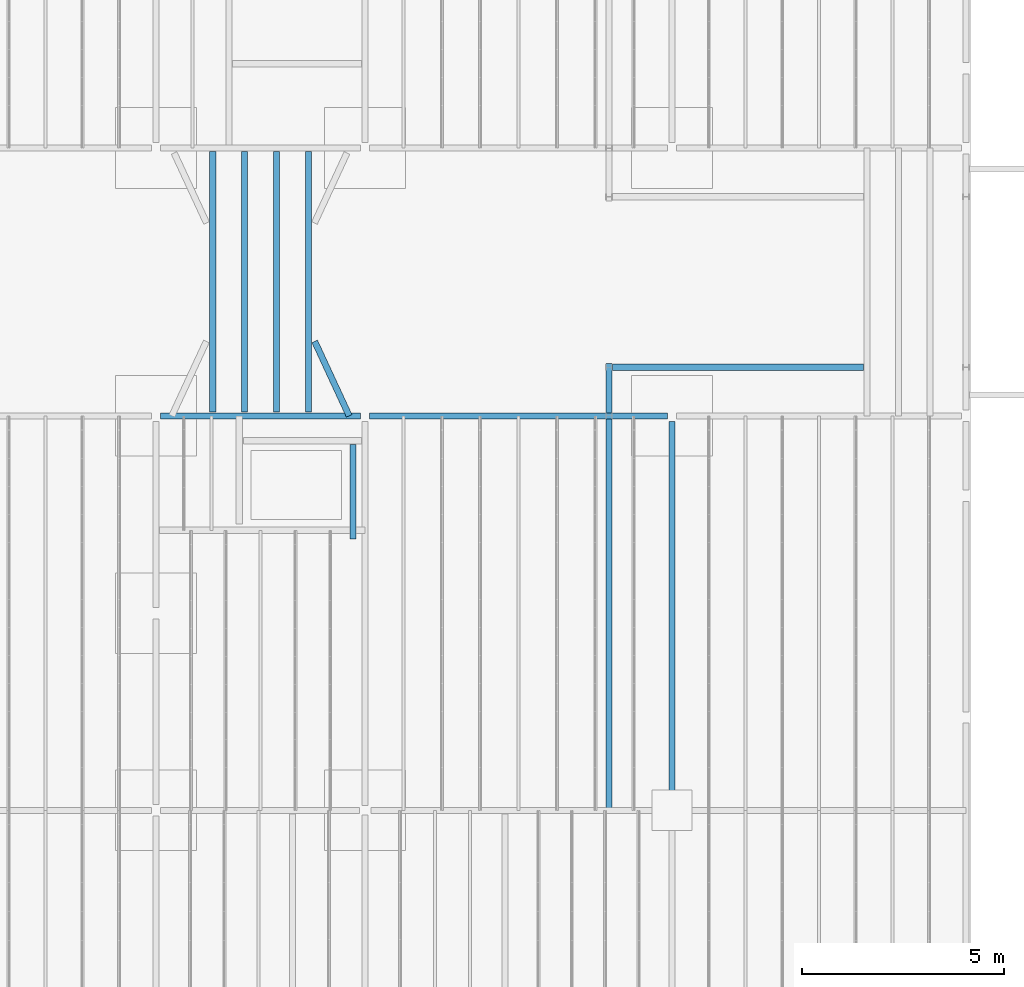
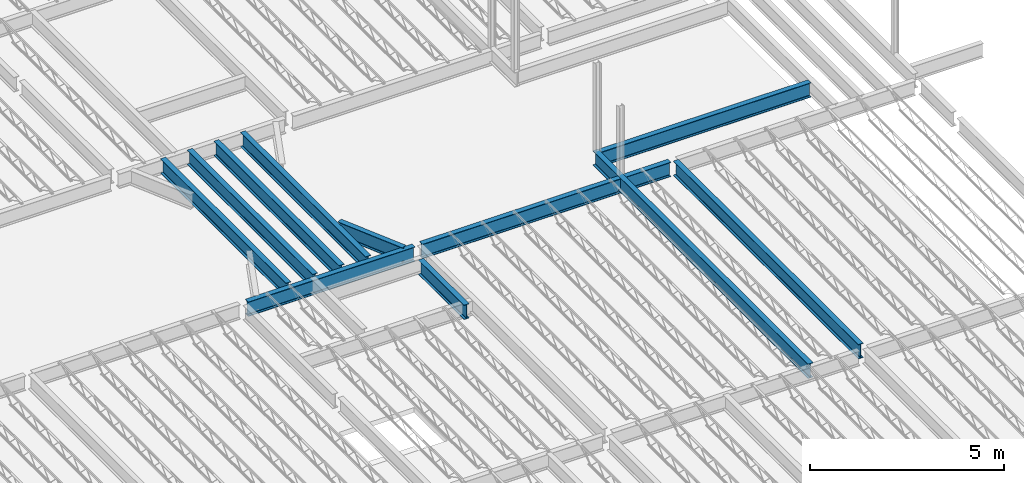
# One storey, part 12 of 75: 11 beams.
"""IFC2X3 building model written with IfcOpenShell, lengths in metres."""

from ifc_helpers import new_model, entity, si_unit, converted_unit, frame, frame_2d, origin, place, context, project, spatial, polyline, circle_curve, parameter, trimmed, segment, composite_curve, outline, extrude, material, element, save


model = new_model("IFC2X3")

# Units and contexts
model_context = context("Model", 3, precision=1e-09, world=origin())
plan_context = context("Plan", 3, precision=1e-09, world=origin())
ifc_project = project(units=[si_unit("LENGTHUNIT", "METRE"), si_unit("AREAUNIT", "SQUARE_METRE"), si_unit("VOLUMEUNIT", "CUBIC_METRE"), converted_unit("PLANEANGLEUNIT", "DEGREE", entity("IfcRatioMeasure", 0.01745329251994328), si_unit("PLANEANGLEUNIT", "RADIAN"), dimensions=[0, 0, 0, 0, 0, 0, 0]), si_unit("TIMEUNIT", "SECOND")], contexts=[model_context, plan_context])

# Site, building, storey
site_placement = place(None, origin())
site = spatial("IfcSite", under=ifc_project, at=site_placement, Name="Default", CompositionType="ELEMENT")
building_placement = place(site_placement, origin())
building = spatial("IfcBuilding", under=site, at=building_placement, CompositionType="ELEMENT")
storey_placement = place(building_placement, origin())
storey = spatial("IfcBuildingStorey", under=building, at=storey_placement, Name="First Floor", CompositionType="ELEMENT", Elevation=-3.531500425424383e-13)

# Beams
ifc_material = material(Name="Metal - Steel - 345 MPa")
beam_1_placement = place(storey_placement, frame((-18.65495481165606, 28.52799529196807, 4.468000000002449)))
element("IfcBeam", 1, at=beam_1_placement, inside=storey, material=ifc_material, Name="M_W-Wide Flange:W460X60:W460X60", ObjectType="M_W-Wide Flange:W460X60", context=model_context, shape_type="SweptSolid", body=[
    extrude(outline(composite_curve([segment(polyline([(-0.07649999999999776, -0.2142), (-0.07649999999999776, -0.2275000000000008)]), True, "CONTINUOUS"), segment(polyline([(-0.07649999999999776, -0.2275000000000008), (0.0765000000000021, -0.2275000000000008)]), True, "CONTINUOUS"), segment(polyline([(0.0765000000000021, -0.2275000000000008), (0.0765000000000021, -0.2142)]), True, "CONTINUOUS"), segment(polyline([(0.0765000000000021, -0.2142), (0.02170000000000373, -0.2142)]), True, "CONTINUOUS"), segment(trimmed(circle_curve(frame_2d((0.02170000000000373, -0.1964999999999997), x_axis=(1.0, 0.0)), 0.0177), [parameter(180.0)], [parameter(269.9999999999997)], True, "PARAMETER"), False, "CONTINUOUS"), segment(polyline([(0.004000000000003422, -0.1964999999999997), (0.004000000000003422, 0.1965000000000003)]), True, "CONTINUOUS"), segment(trimmed(circle_curve(frame_2d((0.02170000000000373, 0.1965000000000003), x_axis=(1.0, 0.0)), 0.0177), [parameter(90.00000000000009)], [parameter(179.9999999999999)], True, "PARAMETER"), False, "CONTINUOUS"), segment(polyline([(0.02170000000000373, 0.2142000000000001), (0.0765000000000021, 0.2142000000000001)]), True, "CONTINUOUS"), segment(polyline([(0.0765000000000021, 0.2142000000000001), (0.0765000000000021, 0.2274999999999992)]), True, "CONTINUOUS"), segment(polyline([(0.0765000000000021, 0.2274999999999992), (-0.07649999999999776, 0.2274999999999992)]), True, "CONTINUOUS"), segment(polyline([(-0.07649999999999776, 0.2274999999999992), (-0.07649999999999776, 0.2142000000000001)]), True, "CONTINUOUS"), segment(polyline([(-0.07649999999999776, 0.2142000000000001), (-0.02169999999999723, 0.2142000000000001)]), True, "CONTINUOUS"), segment(trimmed(circle_curve(frame_2d((-0.02169999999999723, 0.1965000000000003), x_axis=(1.0, 0.0)), 0.0177), [parameter(359.9999999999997)], [parameter(89.99999999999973)], True, "PARAMETER"), False, "CONTINUOUS"), segment(polyline([(-0.003999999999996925, 0.1965000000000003), (-0.003999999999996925, -0.1964999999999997)]), True, "CONTINUOUS"), segment(trimmed(circle_curve(frame_2d((-0.02169999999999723, -0.1964999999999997), x_axis=(1.0, 0.0)), 0.0177), [parameter(269.9999999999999)], [parameter(0.0)], True, "PARAMETER"), False, "CONTINUOUS"), segment(polyline([(-0.02169999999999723, -0.2142), (-0.07649999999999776, -0.2142)]), True, "CONTINUOUS")], self_intersect=False)), frame((0.0, -0.058795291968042, -0.2275000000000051), z_axis=(0.0, -1.0, 0.0), x_axis=(1.0, 0.0, 0.0)), (0.0, 0.0, -1.0), 6.451599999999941),
])
beam_2_placement = place(storey_placement, frame((-16.28495498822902, 34.86211010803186, 4.468000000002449), z_axis=(0.0, 0.0, 1.0), x_axis=(-1.0, 0.0, 0.0)))
element("IfcBeam", 2, at=beam_2_placement, inside=storey, material=ifc_material, Name="M_W-Wide Flange:W460X60:W460X60", ObjectType="M_W-Wide Flange:W460X60", context=model_context, shape_type="SweptSolid", body=[
    extrude(outline(composite_curve([segment(polyline([(0.2142, -0.07650000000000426), (0.2275000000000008, -0.07650000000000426)]), True, "CONTINUOUS"), segment(polyline([(0.2275000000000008, -0.07650000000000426), (0.2275000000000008, 0.0764999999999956)]), True, "CONTINUOUS"), segment(polyline([(0.2275000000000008, 0.0764999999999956), (0.2142, 0.0764999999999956)]), True, "CONTINUOUS"), segment(polyline([(0.2142, 0.0764999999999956), (0.2142, 0.02169999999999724)]), True, "CONTINUOUS"), segment(trimmed(circle_curve(frame_2d((0.1964999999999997, 0.02169999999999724), x_axis=(0.0, 1.0)), 0.0177), [parameter(180.0)], [parameter(269.9999999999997)], True, "PARAMETER"), False, "CONTINUOUS"), segment(polyline([(0.1964999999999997, 0.003999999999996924), (-0.1965000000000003, 0.003999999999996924)]), True, "CONTINUOUS"), segment(trimmed(circle_curve(frame_2d((-0.1965000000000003, 0.02169999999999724), x_axis=(0.0, 1.0)), 0.0177), [parameter(90.00000000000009)], [parameter(179.9999999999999)], True, "PARAMETER"), False, "CONTINUOUS"), segment(polyline([(-0.2142000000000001, 0.02169999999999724), (-0.2142000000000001, 0.0764999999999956)]), True, "CONTINUOUS"), segment(polyline([(-0.2142000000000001, 0.0764999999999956), (-0.2274999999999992, 0.0764999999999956)]), True, "CONTINUOUS"), segment(polyline([(-0.2274999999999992, 0.0764999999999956), (-0.2274999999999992, -0.07650000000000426)]), True, "CONTINUOUS"), segment(polyline([(-0.2274999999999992, -0.07650000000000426), (-0.2142000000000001, -0.07650000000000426)]), True, "CONTINUOUS"), segment(polyline([(-0.2142000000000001, -0.07650000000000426), (-0.2142000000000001, -0.02170000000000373)]), True, "CONTINUOUS"), segment(trimmed(circle_curve(frame_2d((-0.1965000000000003, -0.02170000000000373), x_axis=(0.0, 1.0)), 0.0177), [parameter(359.9999999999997)], [parameter(89.99999999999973)], True, "PARAMETER"), False, "CONTINUOUS"), segment(polyline([(-0.1965000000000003, -0.004000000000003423), (0.1964999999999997, -0.004000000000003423)]), True, "CONTINUOUS"), segment(trimmed(circle_curve(frame_2d((0.1964999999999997, -0.02170000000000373), x_axis=(0.0, 1.0)), 0.0177), [parameter(269.9999999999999)], [parameter(0.0)], True, "PARAMETER"), False, "CONTINUOUS"), segment(polyline([(0.2142, -0.02170000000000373), (0.2142, -0.07650000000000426)]), True, "CONTINUOUS")], self_intersect=False)), frame((0.0, 6.392910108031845, -0.2275000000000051), z_axis=(0.0, -1.0, 0.0), x_axis=(0.0, 0.0, -1.0)), (0.0, 0.0, 1.0), 6.451599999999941),
])
beam_3_placement = place(storey_placement, frame((-17.07495492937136, 28.52799529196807, 4.468000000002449)))
element("IfcBeam", 3, at=beam_3_placement, inside=storey, material=ifc_material, Name="M_W-Wide Flange:W460X60:W460X60", ObjectType="M_W-Wide Flange:W460X60", context=model_context, shape_type="SweptSolid", body=[
    extrude(outline(composite_curve([segment(polyline([(-0.0764999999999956, -0.2142000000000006), (-0.0764999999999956, -0.2275000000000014)]), True, "CONTINUOUS"), segment(polyline([(-0.0764999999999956, -0.2275000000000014), (0.07650000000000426, -0.2275000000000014)]), True, "CONTINUOUS"), segment(polyline([(0.07650000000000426, -0.2275000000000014), (0.07650000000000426, -0.2142000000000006)]), True, "CONTINUOUS"), segment(polyline([(0.07650000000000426, -0.2142000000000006), (0.0217000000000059, -0.2142000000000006)]), True, "CONTINUOUS"), segment(trimmed(circle_curve(frame_2d((0.0217000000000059, -0.1964999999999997), x_axis=(1.0, 0.0)), 0.0177), [parameter(180.0)], [parameter(269.9999999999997)], True, "PARAMETER"), False, "CONTINUOUS"), segment(polyline([(0.004000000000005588, -0.1965000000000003), (0.004000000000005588, 0.1964999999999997)]), True, "CONTINUOUS"), segment(trimmed(circle_curve(frame_2d((0.0217000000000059, 0.1965000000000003), x_axis=(1.0, 0.0)), 0.0177), [parameter(90.00000000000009)], [parameter(179.9999999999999)], True, "PARAMETER"), False, "CONTINUOUS"), segment(polyline([(0.0217000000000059, 0.2141999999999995), (0.07650000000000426, 0.2141999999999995)]), True, "CONTINUOUS"), segment(polyline([(0.07650000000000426, 0.2141999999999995), (0.07650000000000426, 0.2274999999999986)]), True, "CONTINUOUS"), segment(polyline([(0.07650000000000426, 0.2274999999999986), (-0.0764999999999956, 0.2274999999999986)]), True, "CONTINUOUS"), segment(polyline([(-0.0764999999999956, 0.2274999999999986), (-0.0764999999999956, 0.2141999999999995)]), True, "CONTINUOUS"), segment(polyline([(-0.0764999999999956, 0.2141999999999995), (-0.02169999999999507, 0.2141999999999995)]), True, "CONTINUOUS"), segment(trimmed(circle_curve(frame_2d((-0.02169999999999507, 0.1965000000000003), x_axis=(1.0, 0.0)), 0.0177), [parameter(359.9999999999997)], [parameter(89.99999999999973)], True, "PARAMETER"), False, "CONTINUOUS"), segment(polyline([(-0.00399999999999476, 0.1964999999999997), (-0.00399999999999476, -0.1965000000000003)]), True, "CONTINUOUS"), segment(trimmed(circle_curve(frame_2d((-0.02169999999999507, -0.1964999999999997), x_axis=(1.0, 0.0)), 0.0177), [parameter(269.9999999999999)], [parameter(0.0)], True, "PARAMETER"), False, "CONTINUOUS"), segment(polyline([(-0.02169999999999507, -0.2142000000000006), (-0.0764999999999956, -0.2142000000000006)]), True, "CONTINUOUS")], self_intersect=False)), frame((0.0, -0.05879529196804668, -0.2275000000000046), z_axis=(0.0, -1.0, 0.0), x_axis=(1.0, 0.0, 0.0)), (0.0, 0.0, -1.0), 6.451599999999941),
])
beam_4_placement = place(storey_placement, frame((-15.18005879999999, 27.66491496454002, 4.46800000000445), z_axis=(0.0, 0.0, 1.0), x_axis=(-1.0, 0.0, 0.0)))
element("IfcBeam", 4, at=beam_4_placement, inside=storey, material=ifc_material, Name="M_W-Wide Flange:W460X60:W460X60", ObjectType="M_W-Wide Flange:W460X60", context=model_context, shape_type="SweptSolid", body=[
    extrude(outline(composite_curve([segment(polyline([(0.2142000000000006, -0.07649999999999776), (0.2275000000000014, -0.07649999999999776)]), True, "CONTINUOUS"), segment(polyline([(0.2275000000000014, -0.07649999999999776), (0.2275000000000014, 0.0765000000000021)]), True, "CONTINUOUS"), segment(polyline([(0.2275000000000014, 0.0765000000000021), (0.2142000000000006, 0.0765000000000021)]), True, "CONTINUOUS"), segment(polyline([(0.2142000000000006, 0.0765000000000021), (0.2142000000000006, 0.02170000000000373)]), True, "CONTINUOUS"), segment(trimmed(circle_curve(frame_2d((0.1965000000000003, 0.02170000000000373), x_axis=(0.0, 1.0)), 0.0177), [parameter(180.0)], [parameter(269.9999999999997)], True, "PARAMETER"), False, "CONTINUOUS"), segment(polyline([(0.1965000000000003, 0.004000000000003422), (-0.1964999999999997, 0.004000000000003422)]), True, "CONTINUOUS"), segment(trimmed(circle_curve(frame_2d((-0.1964999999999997, 0.02170000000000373), x_axis=(0.0, 1.0)), 0.0177), [parameter(90.00000000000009)], [parameter(179.9999999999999)], True, "PARAMETER"), False, "CONTINUOUS"), segment(polyline([(-0.2141999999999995, 0.02170000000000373), (-0.2141999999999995, 0.0765000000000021)]), True, "CONTINUOUS"), segment(polyline([(-0.2141999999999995, 0.0765000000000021), (-0.2274999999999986, 0.0765000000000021)]), True, "CONTINUOUS"), segment(polyline([(-0.2274999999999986, 0.0765000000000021), (-0.2274999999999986, -0.07649999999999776)]), True, "CONTINUOUS"), segment(polyline([(-0.2274999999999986, -0.07649999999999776), (-0.2141999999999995, -0.07649999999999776)]), True, "CONTINUOUS"), segment(polyline([(-0.2141999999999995, -0.07649999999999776), (-0.2141999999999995, -0.02169999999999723)]), True, "CONTINUOUS"), segment(trimmed(circle_curve(frame_2d((-0.1964999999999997, -0.02169999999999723), x_axis=(0.0, 1.0)), 0.0177), [parameter(359.9999999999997)], [parameter(89.99999999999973)], True, "PARAMETER"), False, "CONTINUOUS"), segment(polyline([(-0.1964999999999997, -0.003999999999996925), (0.1965000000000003, -0.003999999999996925)]), True, "CONTINUOUS"), segment(trimmed(circle_curve(frame_2d((0.1965000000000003, -0.02169999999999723), x_axis=(0.0, 1.0)), 0.0177), [parameter(269.9999999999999)], [parameter(0.0)], True, "PARAMETER"), False, "CONTINUOUS"), segment(polyline([(0.2142000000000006, -0.02169999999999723), (0.2142000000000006, -0.07649999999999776)]), True, "CONTINUOUS")], self_intersect=False)), frame((0.0, 2.339854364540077, -0.2275000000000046), z_axis=(0.0, -1.0, 0.0), x_axis=(0.0, 0.0, -1.0)), (0.0, 0.0, 1.0), 2.346799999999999),
])
beam_5_placement = place(storey_placement, frame((-17.86495487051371, 28.52799529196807, 4.468000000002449)))
element("IfcBeam", 5, at=beam_5_placement, inside=storey, material=ifc_material, Name="M_W-Wide Flange:W460X60:W460X60", ObjectType="M_W-Wide Flange:W460X60", context=model_context, shape_type="SweptSolid", body=[
    extrude(outline(composite_curve([segment(polyline([(-0.07650000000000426, -0.2142), (-0.07650000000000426, -0.2275000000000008)]), True, "CONTINUOUS"), segment(polyline([(-0.07650000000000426, -0.2275000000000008), (0.0764999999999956, -0.2275000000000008)]), True, "CONTINUOUS"), segment(polyline([(0.0764999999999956, -0.2275000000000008), (0.0764999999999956, -0.2142)]), True, "CONTINUOUS"), segment(polyline([(0.0764999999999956, -0.2142), (0.02169999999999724, -0.2142)]), True, "CONTINUOUS"), segment(trimmed(circle_curve(frame_2d((0.02169999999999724, -0.1964999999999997), x_axis=(1.0, 0.0)), 0.0177), [parameter(180.0)], [parameter(269.9999999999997)], True, "PARAMETER"), False, "CONTINUOUS"), segment(polyline([(0.003999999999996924, -0.1964999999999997), (0.003999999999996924, 0.1965000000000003)]), True, "CONTINUOUS"), segment(trimmed(circle_curve(frame_2d((0.02169999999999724, 0.1965000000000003), x_axis=(1.0, 0.0)), 0.0177), [parameter(90.00000000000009)], [parameter(179.9999999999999)], True, "PARAMETER"), False, "CONTINUOUS"), segment(polyline([(0.02169999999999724, 0.2142000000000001), (0.0764999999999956, 0.2142000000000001)]), True, "CONTINUOUS"), segment(polyline([(0.0764999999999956, 0.2142000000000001), (0.0764999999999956, 0.2274999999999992)]), True, "CONTINUOUS"), segment(polyline([(0.0764999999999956, 0.2274999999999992), (-0.07650000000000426, 0.2274999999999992)]), True, "CONTINUOUS"), segment(polyline([(-0.07650000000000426, 0.2274999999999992), (-0.07650000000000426, 0.2142000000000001)]), True, "CONTINUOUS"), segment(polyline([(-0.07650000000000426, 0.2142000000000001), (-0.02170000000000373, 0.2142000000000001)]), True, "CONTINUOUS"), segment(trimmed(circle_curve(frame_2d((-0.02170000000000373, 0.1965000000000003), x_axis=(1.0, 0.0)), 0.0177), [parameter(359.9999999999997)], [parameter(89.99999999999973)], True, "PARAMETER"), False, "CONTINUOUS"), segment(polyline([(-0.004000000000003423, 0.1965000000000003), (-0.004000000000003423, -0.1964999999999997)]), True, "CONTINUOUS"), segment(trimmed(circle_curve(frame_2d((-0.02170000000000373, -0.1964999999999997), x_axis=(1.0, 0.0)), 0.0177), [parameter(269.9999999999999)], [parameter(0.0)], True, "PARAMETER"), False, "CONTINUOUS"), segment(polyline([(-0.02170000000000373, -0.2142), (-0.07650000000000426, -0.2142)]), True, "CONTINUOUS")], self_intersect=False)), frame((0.0, -0.058795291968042, -0.2275000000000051), z_axis=(0.0, -1.0, 0.0), x_axis=(1.0, 0.0, 0.0)), (0.0, 0.0, -1.0), 6.451599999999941),
])
beam_6_placement = place(storey_placement, frame((-8.840191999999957, 18.76256548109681, 4.46800000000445)))
element("IfcBeam", 6, at=beam_6_placement, inside=storey, material=ifc_material, Name="M_W-Wide Flange:W460X60:W460X60", ObjectType="M_W-Wide Flange:W460X60", context=model_context, shape_type="SweptSolid", body=[
    extrude(outline(composite_curve([segment(polyline([(-0.0765000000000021, -0.2142), (-0.0765000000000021, -0.2275000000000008)]), True, "CONTINUOUS"), segment(polyline([(-0.0765000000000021, -0.2275000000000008), (0.07649999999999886, -0.2275000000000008)]), True, "CONTINUOUS"), segment(polyline([(0.07649999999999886, -0.2275000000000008), (0.07649999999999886, -0.2142)]), True, "CONTINUOUS"), segment(polyline([(0.07649999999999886, -0.2142), (0.02169999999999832, -0.2142)]), True, "CONTINUOUS"), segment(trimmed(circle_curve(frame_2d((0.02169999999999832, -0.1964999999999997), x_axis=(1.0, 0.0)), 0.0177), [parameter(180.0)], [parameter(269.9999999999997)], True, "PARAMETER"), False, "CONTINUOUS"), segment(polyline([(0.003999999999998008, -0.1964999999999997), (0.003999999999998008, 0.1965000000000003)]), True, "CONTINUOUS"), segment(trimmed(circle_curve(frame_2d((0.02169999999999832, 0.1965000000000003), x_axis=(1.0, 0.0)), 0.0177), [parameter(90.00000000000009)], [parameter(179.9999999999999)], True, "PARAMETER"), False, "CONTINUOUS"), segment(polyline([(0.02169999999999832, 0.2142000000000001), (0.07649999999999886, 0.2142000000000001)]), True, "CONTINUOUS"), segment(polyline([(0.07649999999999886, 0.2142000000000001), (0.07649999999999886, 0.2274999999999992)]), True, "CONTINUOUS"), segment(polyline([(0.07649999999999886, 0.2274999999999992), (-0.07650000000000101, 0.2274999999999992)]), True, "CONTINUOUS"), segment(polyline([(-0.07650000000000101, 0.2274999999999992), (-0.07650000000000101, 0.2142000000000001)]), True, "CONTINUOUS"), segment(polyline([(-0.07650000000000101, 0.2142000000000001), (-0.02170000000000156, 0.2142000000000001)]), True, "CONTINUOUS"), segment(trimmed(circle_curve(frame_2d((-0.02170000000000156, 0.1965000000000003), x_axis=(1.0, 0.0)), 0.0177), [parameter(359.9999999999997)], [parameter(89.99999999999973)], True, "PARAMETER"), False, "CONTINUOUS"), segment(polyline([(-0.004000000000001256, 0.1965000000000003), (-0.004000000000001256, -0.1964999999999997)]), True, "CONTINUOUS"), segment(trimmed(circle_curve(frame_2d((-0.02170000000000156, -0.1964999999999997), x_axis=(1.0, 0.0)), 0.0177), [parameter(269.9999999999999)], [parameter(0.0)], True, "PARAMETER"), False, "CONTINUOUS"), segment(polyline([(-0.02170000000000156, -0.2142), (-0.0765000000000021, -0.2142)]), True, "CONTINUOUS")], self_intersect=False)), frame((0.0, -0.1525654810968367, -0.2275000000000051), z_axis=(0.0, -1.0, 0.0), x_axis=(1.0, 0.0, 0.0)), (0.0, 0.0, -1.0), 11.065),
])
beam_7_placement = place(storey_placement, frame((-16.21746711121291, 30.41435059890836, 4.468000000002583), z_axis=(0.0, 0.0, 1.0), x_axis=(-0.9072712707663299, -0.4205458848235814, 0.0)))
element("IfcBeam", 7, at=beam_7_placement, inside=storey, material=ifc_material, Name="M_W-Wide Flange:W460X60:W460X60", ObjectType="M_W-Wide Flange:W460X60", context=model_context, shape_type="SweptSolid", body=[
    extrude(outline(composite_curve([segment(polyline([(0.2142000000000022, -0.07649999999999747), (0.227500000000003, -0.07649999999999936)]), True, "CONTINUOUS"), segment(polyline([(0.227500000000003, -0.07649999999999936), (0.2274999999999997, 0.07650000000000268)]), True, "CONTINUOUS"), segment(polyline([(0.2274999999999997, 0.07650000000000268), (0.2141999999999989, 0.0765000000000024)]), True, "CONTINUOUS"), segment(polyline([(0.2141999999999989, 0.0765000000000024), (0.2142000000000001, 0.02170000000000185)]), True, "CONTINUOUS"), segment(trimmed(circle_curve(frame_2d((0.1964999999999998, 0.02170000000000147), x_axis=(0.0, 1.0)), 0.0177), [parameter(180.0)], [parameter(269.9999999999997)], True, "PARAMETER"), False, "CONTINUOUS"), segment(polyline([(0.1965000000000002, 0.004000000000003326), (-0.1964999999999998, 0.003999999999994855)]), True, "CONTINUOUS"), segment(trimmed(circle_curve(frame_2d((-0.1965000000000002, 0.02169999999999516), x_axis=(0.0, 1.0)), 0.0177), [parameter(90.00000000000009)], [parameter(179.9999999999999)], True, "PARAMETER"), False, "CONTINUOUS"), segment(polyline([(-0.2142, 0.02169999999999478), (-0.2142000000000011, 0.07649999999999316)]), True, "CONTINUOUS"), segment(polyline([(-0.2142000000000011, 0.07649999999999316), (-0.2275000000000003, 0.07649999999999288)]), True, "CONTINUOUS"), segment(polyline([(-0.2275000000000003, 0.07649999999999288), (-0.227499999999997, -0.07650000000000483)]), True, "CONTINUOUS"), segment(polyline([(-0.227499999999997, -0.07650000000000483), (-0.2141999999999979, -0.07650000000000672)]), True, "CONTINUOUS"), segment(polyline([(-0.2141999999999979, -0.07650000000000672), (-0.214199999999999, -0.02170000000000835)]), True, "CONTINUOUS"), segment(trimmed(circle_curve(frame_2d((-0.1964999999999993, -0.0217000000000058), x_axis=(0.0, 1.0)), 0.0177), [parameter(359.9999999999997)], [parameter(89.99999999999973)], True, "PARAMETER"), False, "CONTINUOUS"), segment(polyline([(-0.1964999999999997, -0.004000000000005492), (0.1965000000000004, -0.003999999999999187)]), True, "CONTINUOUS"), segment(trimmed(circle_curve(frame_2d((0.1965000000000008, -0.02169999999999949), x_axis=(0.0, 1.0)), 0.0177), [parameter(269.9999999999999)], [parameter(0.0)], True, "PARAMETER"), False, "CONTINUOUS"), segment(polyline([(0.214200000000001, -0.02169999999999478), (0.2142000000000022, -0.07649999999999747)]), True, "CONTINUOUS")], self_intersect=False)), frame((0.0, 2.242273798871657, -0.2275000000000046), z_axis=(0.0, -1.0, 0.0), x_axis=(0.0, 0.0, -1.0)), (0.0, 0.0, 1.0), 2.031206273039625),
])
beam_8_placement = place(storey_placement, frame((-7.280000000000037, 28.38140165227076, 4.46800000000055), z_axis=(0.0, 0.0, 1.0), x_axis=(-1.0, 0.0, 0.0)))
element("IfcBeam", 8, at=beam_8_placement, inside=storey, material=ifc_material, Name="M_W-Wide Flange:W460X60:W460X60", ObjectType="M_W-Wide Flange:W460X60", context=model_context, shape_type="SweptSolid", body=[
    extrude(outline(composite_curve([segment(polyline([(0.2141999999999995, -0.07650000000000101), (0.2275000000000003, -0.07650000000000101)]), True, "CONTINUOUS"), segment(polyline([(0.2275000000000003, -0.07650000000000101), (0.2275000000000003, 0.07649999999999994)]), True, "CONTINUOUS"), segment(polyline([(0.2275000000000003, 0.07649999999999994), (0.2141999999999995, 0.07649999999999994)]), True, "CONTINUOUS"), segment(polyline([(0.2141999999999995, 0.07649999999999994), (0.2141999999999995, 0.0216999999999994)]), True, "CONTINUOUS"), segment(trimmed(circle_curve(frame_2d((0.1964999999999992, 0.0216999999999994), x_axis=(1.0, 0.0)), 0.0177), [parameter(269.9999999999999)], [parameter(359.9999999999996)], True, "PARAMETER"), False, "CONTINUOUS"), segment(polyline([(0.1964999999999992, 0.00399999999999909), (-0.1965000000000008, 0.00399999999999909)]), True, "CONTINUOUS"), segment(trimmed(circle_curve(frame_2d((-0.1965000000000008, 0.0216999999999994), x_axis=(0.0, -1.0)), 0.0177), [parameter(269.9999999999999)], [parameter(359.9999999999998)], True, "PARAMETER"), False, "CONTINUOUS"), segment(polyline([(-0.2142000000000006, 0.0216999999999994), (-0.2142000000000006, 0.07649999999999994)]), True, "CONTINUOUS"), segment(polyline([(-0.2142000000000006, 0.07649999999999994), (-0.2274999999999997, 0.07649999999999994)]), True, "CONTINUOUS"), segment(polyline([(-0.2274999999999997, 0.07649999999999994), (-0.2274999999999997, -0.07649999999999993)]), True, "CONTINUOUS"), segment(polyline([(-0.2274999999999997, -0.07649999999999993), (-0.2142000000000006, -0.07649999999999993)]), True, "CONTINUOUS"), segment(polyline([(-0.2142000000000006, -0.07649999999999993), (-0.2142000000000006, -0.02170000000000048)]), True, "CONTINUOUS"), segment(trimmed(circle_curve(frame_2d((-0.1965000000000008, -0.02170000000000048), x_axis=(-1.0, 0.0)), 0.0177), [parameter(269.9999999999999)], [parameter(359.9999999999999)], True, "PARAMETER"), False, "CONTINUOUS"), segment(polyline([(-0.1965000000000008, -0.004000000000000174), (0.1964999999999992, -0.004000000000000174)]), True, "CONTINUOUS"), segment(trimmed(circle_curve(frame_2d((0.1964999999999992, -0.02170000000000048), x_axis=(0.0, 1.0)), 0.0177), [parameter(269.9999999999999)], [parameter(5.088887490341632e-14)], True, "PARAMETER"), False, "CONTINUOUS"), segment(polyline([(0.2141999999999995, -0.02170000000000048), (0.2141999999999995, -0.07650000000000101)]), True, "CONTINUOUS")], self_intersect=False)), frame((0.0, 9.656701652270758, -0.2275000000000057), z_axis=(0.0, -1.0, 0.0), x_axis=(0.0, 0.0, -1.0)), (0.0, 0.0, 1.0), 9.514099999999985),
])
beam_9_placement = place(storey_placement, frame((-8.706593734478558, 29.58509200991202, 4.46800000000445), z_axis=(0.0, 0.0, 1.0), x_axis=(0.0, -1.0, 0.0)))
element("IfcBeam", 9, at=beam_9_placement, inside=storey, material=ifc_material, Name="M_W-Wide Flange:W460X60:W460X60", ObjectType="M_W-Wide Flange:W460X60", context=model_context, shape_type="SweptSolid", body=[
    extrude(outline(composite_curve([segment(polyline([(-0.07649999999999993, -0.2142), (-0.07649999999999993, -0.2275000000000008)]), True, "CONTINUOUS"), segment(polyline([(-0.07649999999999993, -0.2275000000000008), (0.07649999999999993, -0.2275000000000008)]), True, "CONTINUOUS"), segment(polyline([(0.07649999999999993, -0.2275000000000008), (0.07649999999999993, -0.2142)]), True, "CONTINUOUS"), segment(polyline([(0.07649999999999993, -0.2142), (0.0216999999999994, -0.2142)]), True, "CONTINUOUS"), segment(trimmed(circle_curve(frame_2d((0.0216999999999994, -0.1964999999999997), x_axis=(1.0, 0.0)), 0.0177), [parameter(180.0)], [parameter(269.9999999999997)], True, "PARAMETER"), False, "CONTINUOUS"), segment(polyline([(0.003999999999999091, -0.1964999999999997), (0.003999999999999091, 0.1965000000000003)]), True, "CONTINUOUS"), segment(trimmed(circle_curve(frame_2d((0.0216999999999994, 0.1965000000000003), x_axis=(1.0, 0.0)), 0.0177), [parameter(90.00000000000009)], [parameter(179.9999999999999)], True, "PARAMETER"), False, "CONTINUOUS"), segment(polyline([(0.0216999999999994, 0.2142000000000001), (0.07649999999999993, 0.2142000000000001)]), True, "CONTINUOUS"), segment(polyline([(0.07649999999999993, 0.2142000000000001), (0.07649999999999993, 0.2274999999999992)]), True, "CONTINUOUS"), segment(polyline([(0.07649999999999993, 0.2274999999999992), (-0.07649999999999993, 0.2274999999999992)]), True, "CONTINUOUS"), segment(polyline([(-0.07649999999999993, 0.2274999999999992), (-0.07649999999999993, 0.2142000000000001)]), True, "CONTINUOUS"), segment(polyline([(-0.07649999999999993, 0.2142000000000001), (-0.0216999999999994, 0.2142000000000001)]), True, "CONTINUOUS"), segment(trimmed(circle_curve(frame_2d((-0.0216999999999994, 0.1965000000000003), x_axis=(1.0, 0.0)), 0.0177), [parameter(359.9999999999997)], [parameter(89.99999999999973)], True, "PARAMETER"), False, "CONTINUOUS"), segment(polyline([(-0.003999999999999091, 0.1965000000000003), (-0.003999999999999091, -0.1964999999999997)]), True, "CONTINUOUS"), segment(trimmed(circle_curve(frame_2d((-0.0216999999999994, -0.1964999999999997), x_axis=(1.0, 0.0)), 0.0177), [parameter(269.9999999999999)], [parameter(0.0)], True, "PARAMETER"), False, "CONTINUOUS"), segment(polyline([(-0.0216999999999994, -0.2142), (-0.07649999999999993, -0.2142)]), True, "CONTINUOUS")], self_intersect=False)), frame((0.0, -0.04489826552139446, -0.2275000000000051), z_axis=(0.0, -1.0, 0.0), x_axis=(1.0, 0.0, 0.0)), (0.0, 0.0, -1.0), 6.212188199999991),
])
beam_10_placement = place(storey_placement, frame((-7.278198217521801, 28.38, 4.404500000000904), z_axis=(0.0, 0.0, 1.0), x_axis=(0.0, 1.0, 0.0)))
element("IfcBeam", 10, at=beam_10_placement, inside=storey, material=ifc_material, Name="M_W-Wide Flange:W460X60:W460X60", ObjectType="M_W-Wide Flange:W460X60", context=model_context, shape_type="SweptSolid", body=[
    extrude(outline(composite_curve([segment(polyline([(0.2141999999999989, -0.0764999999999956), (0.2274999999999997, -0.0764999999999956)]), True, "CONTINUOUS"), segment(polyline([(0.2274999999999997, -0.0764999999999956), (0.2274999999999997, 0.07650000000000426)]), True, "CONTINUOUS"), segment(polyline([(0.2274999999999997, 0.07650000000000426), (0.2141999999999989, 0.07650000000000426)]), True, "CONTINUOUS"), segment(polyline([(0.2141999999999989, 0.07650000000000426), (0.2141999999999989, 0.02170000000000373)]), True, "CONTINUOUS"), segment(trimmed(circle_curve(frame_2d((0.1964999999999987, 0.02170000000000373), x_axis=(1.0, 0.0)), 0.0177), [parameter(269.9999999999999)], [parameter(359.9999999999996)], True, "PARAMETER"), False, "CONTINUOUS"), segment(polyline([(0.1964999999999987, 0.004000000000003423), (-0.1965000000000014, 0.004000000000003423)]), True, "CONTINUOUS"), segment(trimmed(circle_curve(frame_2d((-0.1965000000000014, 0.02170000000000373), x_axis=(0.0, -1.0)), 0.0177), [parameter(269.9999999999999)], [parameter(359.9999999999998)], True, "PARAMETER"), False, "CONTINUOUS"), segment(polyline([(-0.2142000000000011, 0.02170000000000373), (-0.2142000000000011, 0.07650000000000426)]), True, "CONTINUOUS"), segment(polyline([(-0.2142000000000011, 0.07650000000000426), (-0.2275000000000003, 0.07650000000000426)]), True, "CONTINUOUS"), segment(polyline([(-0.2275000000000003, 0.07650000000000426), (-0.2275000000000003, -0.0764999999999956)]), True, "CONTINUOUS"), segment(polyline([(-0.2275000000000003, -0.0764999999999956), (-0.2142000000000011, -0.0764999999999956)]), True, "CONTINUOUS"), segment(polyline([(-0.2142000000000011, -0.0764999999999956), (-0.2142000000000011, -0.02169999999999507)]), True, "CONTINUOUS"), segment(trimmed(circle_curve(frame_2d((-0.1965000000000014, -0.02169999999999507), x_axis=(-1.0, 0.0)), 0.0177), [parameter(269.9999999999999)], [parameter(359.9999999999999)], True, "PARAMETER"), False, "CONTINUOUS"), segment(polyline([(-0.1965000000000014, -0.00399999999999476), (0.1964999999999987, -0.00399999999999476)]), True, "CONTINUOUS"), segment(trimmed(circle_curve(frame_2d((0.1964999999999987, -0.02169999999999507), x_axis=(0.0, 1.0)), 0.0177), [parameter(269.9999999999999)], [parameter(5.088887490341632e-14)], True, "PARAMETER"), False, "CONTINUOUS"), segment(polyline([(0.2141999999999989, -0.02169999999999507), (0.2141999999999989, -0.0764999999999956)]), True, "CONTINUOUS")], self_intersect=False)), frame((0.0, 7.48707678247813, -0.2275000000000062), z_axis=(0.0, -1.0, 0.0), x_axis=(0.0, 0.0, -1.0)), (0.0, 0.0, 1.0), 7.370574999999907),
])
beam_11_placement = place(storey_placement, frame((-14.87733184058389, 28.38000000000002, 4.404500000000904), z_axis=(0.0, 0.0, 1.0), x_axis=(0.0, 1.0, 0.0)))
element("IfcBeam", 11, at=beam_11_placement, inside=storey, material=ifc_material, Name="M_W-Wide Flange:W460X60:W460X60", ObjectType="M_W-Wide Flange:W460X60", context=model_context, shape_type="SweptSolid", body=[
    extrude(outline(composite_curve([segment(polyline([(0.2141999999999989, -0.07650000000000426), (0.2274999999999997, -0.07650000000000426)]), True, "CONTINUOUS"), segment(polyline([(0.2274999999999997, -0.07650000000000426), (0.2274999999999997, 0.0764999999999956)]), True, "CONTINUOUS"), segment(polyline([(0.2274999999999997, 0.0764999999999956), (0.2141999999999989, 0.0764999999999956)]), True, "CONTINUOUS"), segment(polyline([(0.2141999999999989, 0.0764999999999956), (0.2141999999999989, 0.02169999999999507)]), True, "CONTINUOUS"), segment(trimmed(circle_curve(frame_2d((0.1964999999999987, 0.02169999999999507), x_axis=(1.0, 0.0)), 0.0177), [parameter(269.9999999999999)], [parameter(359.9999999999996)], True, "PARAMETER"), False, "CONTINUOUS"), segment(polyline([(0.1964999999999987, 0.00399999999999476), (-0.1965000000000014, 0.00399999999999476)]), True, "CONTINUOUS"), segment(trimmed(circle_curve(frame_2d((-0.1965000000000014, 0.02169999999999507), x_axis=(0.0, -1.0)), 0.0177), [parameter(269.9999999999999)], [parameter(359.9999999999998)], True, "PARAMETER"), False, "CONTINUOUS"), segment(polyline([(-0.2142000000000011, 0.02169999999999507), (-0.2142000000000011, 0.0764999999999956)]), True, "CONTINUOUS"), segment(polyline([(-0.2142000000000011, 0.0764999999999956), (-0.2275000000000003, 0.0764999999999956)]), True, "CONTINUOUS"), segment(polyline([(-0.2275000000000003, 0.0764999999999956), (-0.2275000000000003, -0.07650000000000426)]), True, "CONTINUOUS"), segment(polyline([(-0.2275000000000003, -0.07650000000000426), (-0.2142000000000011, -0.07650000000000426)]), True, "CONTINUOUS"), segment(polyline([(-0.2142000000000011, -0.07650000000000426), (-0.2142000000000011, -0.02170000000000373)]), True, "CONTINUOUS"), segment(trimmed(circle_curve(frame_2d((-0.1965000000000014, -0.02170000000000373), x_axis=(-1.0, 0.0)), 0.0177), [parameter(269.9999999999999)], [parameter(359.9999999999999)], True, "PARAMETER"), False, "CONTINUOUS"), segment(polyline([(-0.1965000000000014, -0.004000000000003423), (0.1964999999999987, -0.004000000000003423)]), True, "CONTINUOUS"), segment(trimmed(circle_curve(frame_2d((0.1964999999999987, -0.02170000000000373), x_axis=(0.0, 1.0)), 0.0177), [parameter(269.9999999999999)], [parameter(5.088887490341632e-14)], True, "PARAMETER"), False, "CONTINUOUS"), segment(polyline([(0.2141999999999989, -0.02170000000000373), (0.2141999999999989, -0.07650000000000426)]), True, "CONTINUOUS")], self_intersect=False)), frame((0.0, 5.067968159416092, -0.2275000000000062), z_axis=(0.0, -1.0, 0.0), x_axis=(0.0, 0.0, -1.0)), (0.0, 0.0, 1.0), 4.950625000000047),
])

save(model, "model.ifc")
